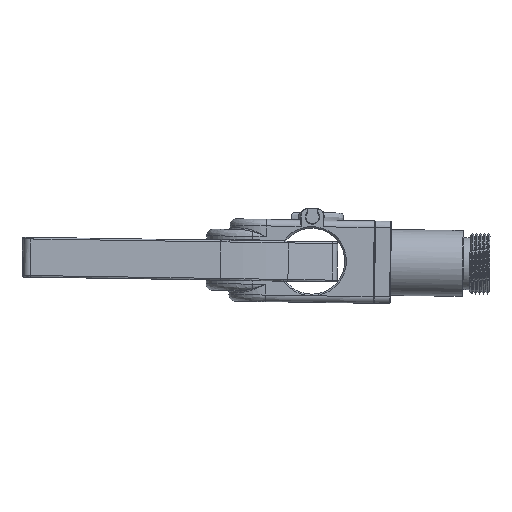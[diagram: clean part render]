
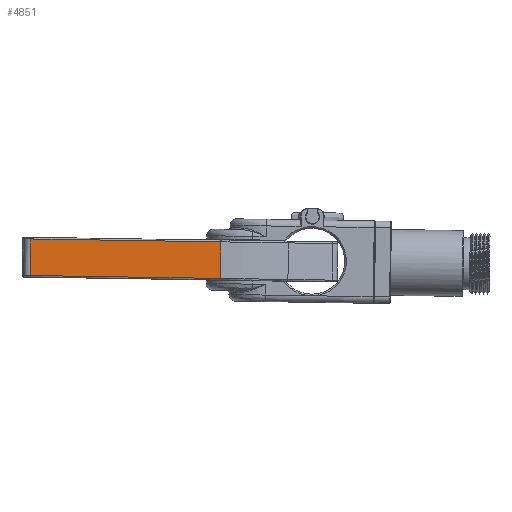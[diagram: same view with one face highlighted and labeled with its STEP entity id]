
A CAD part, left-side view. The second image highlights one B-rep face of the part: STEP entity #4851.
In plain terms, the highlighted planar face has unit normal (-0.999, -0.04, -0.001).
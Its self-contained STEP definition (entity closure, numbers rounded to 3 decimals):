
#936 = ORIENTED_EDGE ( 'NONE', *, *, #46530, .F. ) ;
#4851 = ADVANCED_FACE ( 'NONE', ( #48510 ), #28592, .T. ) ;
#7543 = VECTOR ( 'NONE', #8321, 1000. ) ;
#8321 = DIRECTION ( 'NONE',  ( 0.04, -0.999, -0.015 ) ) ;
#8863 = VECTOR ( 'NONE', #18535, 1000. ) ;
#9147 = LINE ( 'NONE', #21992, #56774 ) ;
#12365 = CARTESIAN_POINT ( 'NONE',  ( -96.803, 19.97, -52.126 ) ) ;
#15889 = ORIENTED_EDGE ( 'NONE', *, *, #44545, .T. ) ;
#16720 = EDGE_CURVE ( 'NONE', #19436, #28378, #55096, .T. ) ;
#17427 = DIRECTION ( 'NONE',  ( 0., 0.015, -1. ) ) ;
#18535 = DIRECTION ( 'NONE',  ( -0.04, 0.999, 0.015 ) ) ;
#19436 = VERTEX_POINT ( 'NONE', #23044 ) ;
#19490 = VECTOR ( 'NONE', #19953, 1000. ) ;
#19588 = LINE ( 'NONE', #52990, #7543 ) ;
#19953 = DIRECTION ( 'NONE',  ( 0., 0.015, -1. ) ) ;
#21992 = CARTESIAN_POINT ( 'NONE',  ( -99.084, 77.646, -51.243 ) ) ;
#22152 = VERTEX_POINT ( 'NONE', #57635 ) ;
#23044 = CARTESIAN_POINT ( 'NONE',  ( -96.803, 20.14, -63.225 ) ) ;
#28100 = CARTESIAN_POINT ( 'NONE',  ( -96.339, 8.243, -52.406 ) ) ;
#28378 = VERTEX_POINT ( 'NONE', #30470 ) ;
#28592 = PLANE ( 'NONE',  #45687 ) ;
#28705 = DIRECTION ( 'NONE',  ( -0.999, -0.04, -0.001 ) ) ;
#28726 = DIRECTION ( 'NONE',  ( 0.04, -0.999, 0. ) ) ;
#30470 = CARTESIAN_POINT ( 'NONE',  ( -99.084, 77.816, -62.342 ) ) ;
#37694 = EDGE_LOOP ( 'NONE', ( #15889, #55175, #38907, #936 ) ) ;
#38907 = ORIENTED_EDGE ( 'NONE', *, *, #47850, .F. ) ;
#40850 = CARTESIAN_POINT ( 'NONE',  ( -96.339, 8.412, -63.404 ) ) ;
#44545 = EDGE_CURVE ( 'NONE', #22152, #28378, #9147, .T. ) ;
#45687 = AXIS2_PLACEMENT_3D ( 'NONE', #28100, #28705, #28726 ) ;
#46530 = EDGE_CURVE ( 'NONE', #22152, #54636, #19588, .T. ) ;
#46734 = CARTESIAN_POINT ( 'NONE',  ( -96.803, 19.971, -52.226 ) ) ;
#47850 = EDGE_CURVE ( 'NONE', #54636, #19436, #55104, .T. ) ;
#48510 = FACE_OUTER_BOUND ( 'NONE', #37694, .T. ) ;
#52990 = CARTESIAN_POINT ( 'NONE',  ( -96.339, 8.242, -52.306 ) ) ;
#54636 = VERTEX_POINT ( 'NONE', #12365 ) ;
#55096 = LINE ( 'NONE', #40850, #8863 ) ;
#55104 = LINE ( 'NONE', #46734, #19490 ) ;
#55175 = ORIENTED_EDGE ( 'NONE', *, *, #16720, .F. ) ;
#56774 = VECTOR ( 'NONE', #17427, 1000. ) ;
#57635 = CARTESIAN_POINT ( 'NONE',  ( -99.084, 77.646, -51.243 ) ) ;
